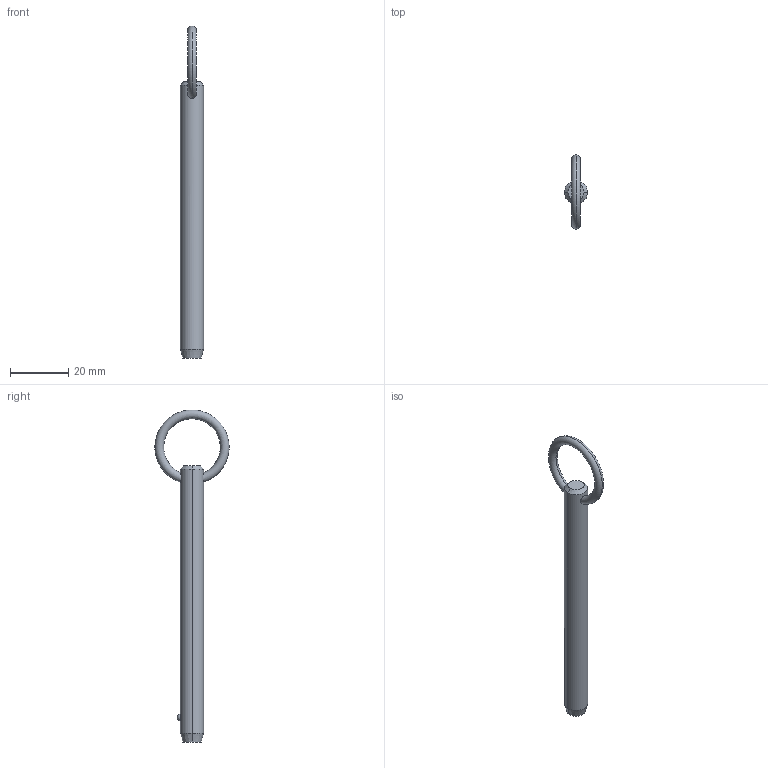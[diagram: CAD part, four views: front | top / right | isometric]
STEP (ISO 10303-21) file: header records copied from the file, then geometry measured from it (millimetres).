
FILE_DESCRIPTION (( 'STEP AP203' ), '1' );
FILE_NAME ('P1250.031-310.step', '2019-07-29T19:53:12', ( '' ), ( '' ), 'SwSTEP 2.0', 'SolidWorks 2017', '' );
FILE_SCHEMA (( 'CONFIG_CONTROL_DESIGN' ));
Length unit declared in the file: millimetre
Products named in the file (1): P1250.031-310
Bounding box: 7.93 x 25.36 x 113.71 mm (x, y, z)
Volume: 5076.2 mm3; surface area: 2993.9 mm2
Topology: 1 solids, 1 shells, 12 faces, 28 edges, 17 vertices
Faces by surface type: cone 4, torus 2, sphere 2, cylinder 2, plane 2
Entity records: 509 total; most frequent: CARTESIAN_POINT 176, DIRECTION 56, ORIENTED_EDGE 48, AXIS2_PLACEMENT_3D 25, EDGE_CURVE 24, VERTEX_POINT 15, EDGE_LOOP 15, ADVANCED_FACE 12
